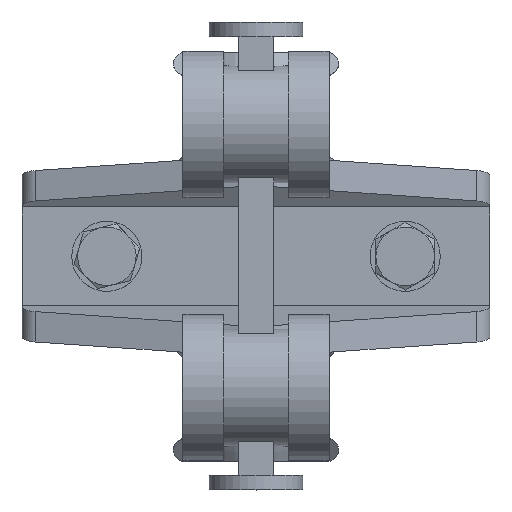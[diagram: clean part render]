
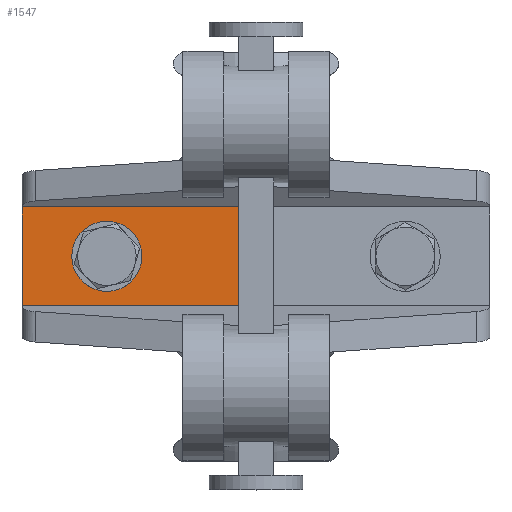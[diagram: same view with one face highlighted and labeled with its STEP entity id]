
A CAD part, top view. The second image highlights one B-rep face of the part: STEP entity #1547.
In plain terms, the highlighted planar face has unit normal (0, 0, 1).
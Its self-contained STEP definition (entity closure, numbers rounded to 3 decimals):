
#715=CARTESIAN_POINT('',(-25.5,19.3,-31.0));
#716=VERTEX_POINT('',#715);
#717=CARTESIAN_POINT('',(-25.5,22.5,-31.0));
#718=DIRECTION('',(0.0,0.0,-1.0));
#719=DIRECTION('',(0.0,1.0,0.0));
#720=AXIS2_PLACEMENT_3D('',#717,#718,#719);
#721=CIRCLE('',#720,3.2);
#722=EDGE_CURVE('',#716,#716,#721,.T.);
#867=CARTESIAN_POINT('',(-3.,30.943,-31.0));
#868=VERTEX_POINT('',#867);
#875=CARTESIAN_POINT('',(-3.,14.057,-31.0));
#876=VERTEX_POINT('',#875);
#877=CARTESIAN_POINT('',(-3.,14.057,-31.0));
#878=DIRECTION('',(0.0,1.0,0.0));
#879=VECTOR('',#878,16.886);
#880=LINE('',#877,#879);
#881=EDGE_CURVE('',#876,#868,#880,.T.);
#1461=CARTESIAN_POINT('',(-40.0,14.057,-31.0));
#1462=VERTEX_POINT('',#1461);
#1463=CARTESIAN_POINT('',(-40.0,14.057,-31.0));
#1464=DIRECTION('',(1.0,0.0,0.0));
#1465=VECTOR('',#1464,37.0);
#1466=LINE('',#1463,#1465);
#1467=EDGE_CURVE('',#1462,#876,#1466,.T.);
#1521=CARTESIAN_POINT('',(-40.0,14.057,-31.0));
#1522=DIRECTION('',(0.0,0.0,1.0));
#1523=DIRECTION('',(1.0,0.0,0.0));
#1524=AXIS2_PLACEMENT_3D('',#1521,#1522,#1523);
#1525=PLANE('',#1524);
#1526=ORIENTED_EDGE('',*,*,#881,.T.);
#1527=CARTESIAN_POINT('',(-40.0,30.943,-31.0));
#1528=VERTEX_POINT('',#1527);
#1529=CARTESIAN_POINT('',(-40.0,30.943,-31.0));
#1530=DIRECTION('',(1.0,0.0,0.0));
#1531=VECTOR('',#1530,37.0);
#1532=LINE('',#1529,#1531);
#1533=EDGE_CURVE('',#1528,#868,#1532,.T.);
#1534=ORIENTED_EDGE('',*,*,#1533,.F.);
#1535=CARTESIAN_POINT('',(-40.0,14.057,-31.0));
#1536=DIRECTION('',(0.0,1.0,0.0));
#1537=VECTOR('',#1536,16.886);
#1538=LINE('',#1535,#1537);
#1539=EDGE_CURVE('',#1462,#1528,#1538,.T.);
#1540=ORIENTED_EDGE('',*,*,#1539,.F.);
#1541=ORIENTED_EDGE('',*,*,#1467,.T.);
#1542=EDGE_LOOP('',(#1526,#1534,#1540,#1541));
#1543=FACE_OUTER_BOUND('',#1542,.T.);
#1544=ORIENTED_EDGE('',*,*,#722,.T.);
#1545=EDGE_LOOP('',(#1544));
#1546=FACE_BOUND('',#1545,.T.);
#1547=ADVANCED_FACE('',(#1543,#1546),#1525,.T.);
